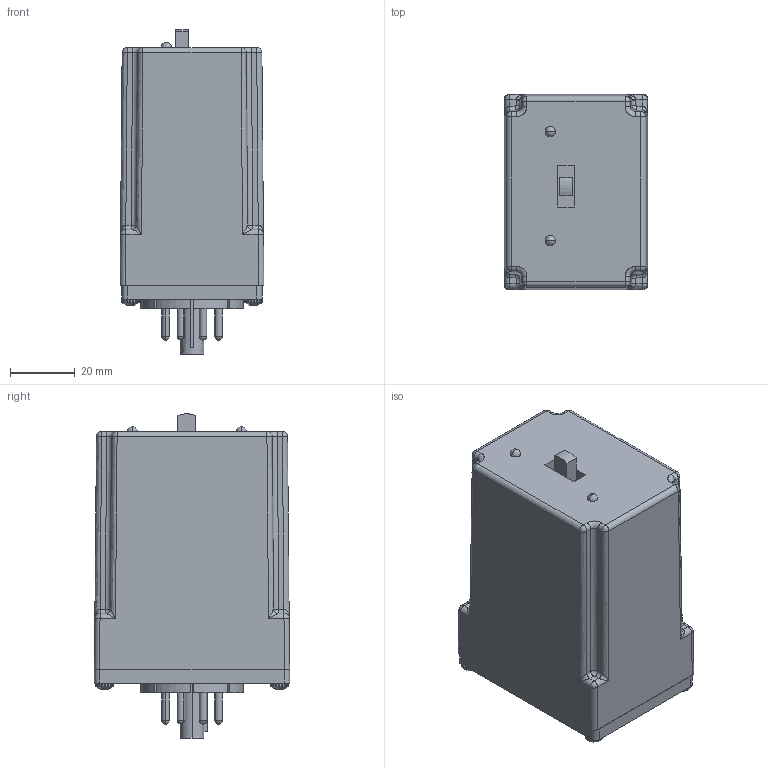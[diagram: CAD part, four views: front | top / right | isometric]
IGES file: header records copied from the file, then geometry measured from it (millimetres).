
Start section: SolidWorks IGES file using analytic representation for surfaces
Global section: file name: D:\Modeling Work\Macromatic\2019\ARP eCAD package\ARP Package\ARP w Switch.IGS; native system: SolidWorks 2019; preprocessor: SolidWorks 2019; author: mdahl; date: 190519.182103; units: millimetre
Bounding box: 44.45 x 60.33 x 100.19 mm (x, y, z)
Surface area: 29065.7 mm2 (no closed solid volume)
Topology: 0 solids, 0 shells, 694 faces, 8532 edges, 8460 vertices
Faces by surface type: revolution 353, bspline 341
